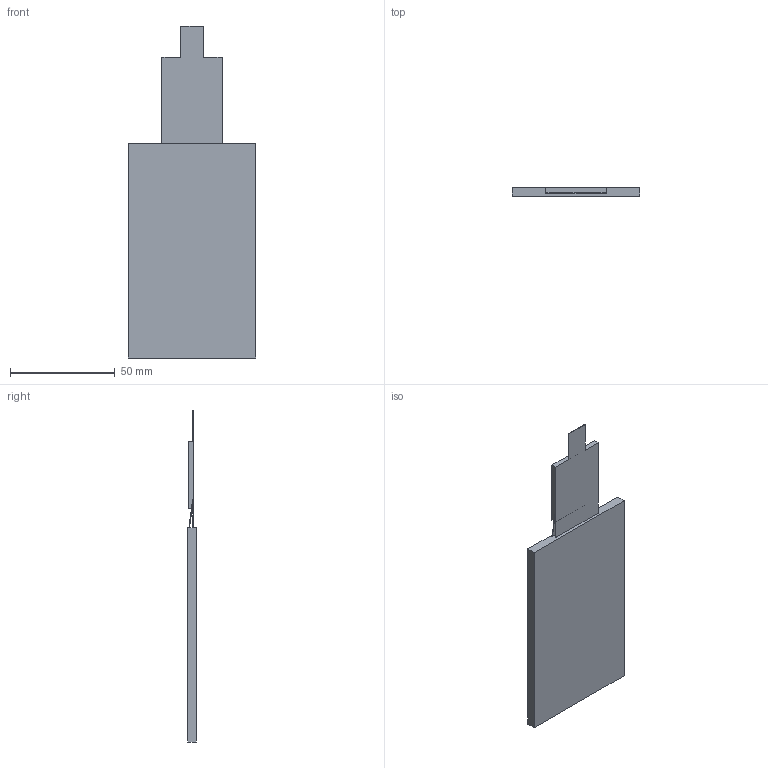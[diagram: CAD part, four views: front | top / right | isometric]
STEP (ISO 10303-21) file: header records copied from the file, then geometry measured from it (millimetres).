
FILE_DESCRIPTION((''),'2;1');
FILE_NAME('3D-DMG80480C043_06WTR','2020-03-03T',('Administrator'),(''),'PRO/ENGINEER BY PARAMETRIC TECHNOLOGY CORPORATION, 2008380','PRO/ENGINEER BY PARAMETRIC TECHNOLOGY CORPORATION, 2008380','');
FILE_SCHEMA(('CONFIG_CONTROL_DESIGN'));
Length unit declared in the file: millimetre
Products named in the file (1): 3D-DMG80480C043_06WTR
Bounding box: 60.86 x 4.3 x 158.84 mm (x, y, z)
Volume: 29309.1 mm3; surface area: 17008.7 mm2
Topology: 1 solids, 1 shells, 22 faces, 64 edges, 44 vertices
Faces by surface type: plane 22
Entity records: 760 total; most frequent: CARTESIAN_POINT 127, ORIENTED_EDGE 120, DIRECTION 110, VECTOR 64, LINE 64, EDGE_CURVE 60, VERTEX_POINT 40, EDGE_LOOP 24
